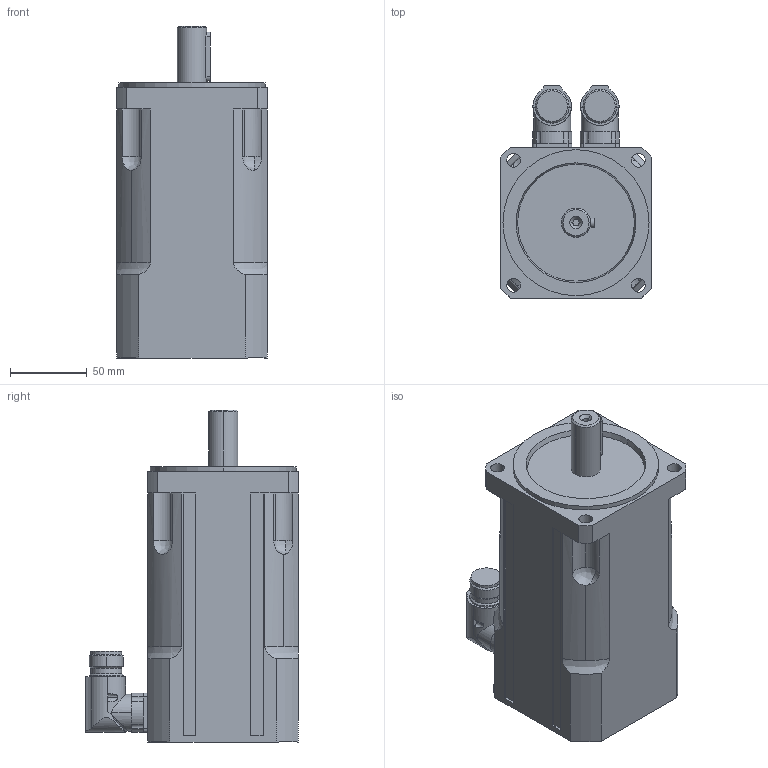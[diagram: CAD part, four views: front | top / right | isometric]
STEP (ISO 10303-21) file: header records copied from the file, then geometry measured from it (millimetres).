
FILE_DESCRIPTION(('STEP AP203'),'2;1');
FILE_NAME('MT4-0530.stp','2006-08-28T20:11:22',(''),(''),'2005.2.102','THINKDESIGN','');
FILE_SCHEMA(('CONFIG_CONTROL_DESIGN'));
Length unit declared in the file: millimetre
Bounding box: 98 x 138.5 x 216 mm (x, y, z)
Volume: 1627756.6 mm3; surface area: 110111.9 mm2
Topology: 3 solids, 3 shells, 249 faces, 647 edges, 418 vertices
Faces by surface type: cylinder 112, plane 77, bspline 60
Entity records: 9416 total; most frequent: CARTESIAN_POINT 3278, ORIENTED_EDGE 1294, DIRECTION 1249, EDGE_CURVE 647, AXIS2_PLACEMENT_3D 483, VERTEX_POINT 418, CIRCLE 294, EDGE_LOOP 287
